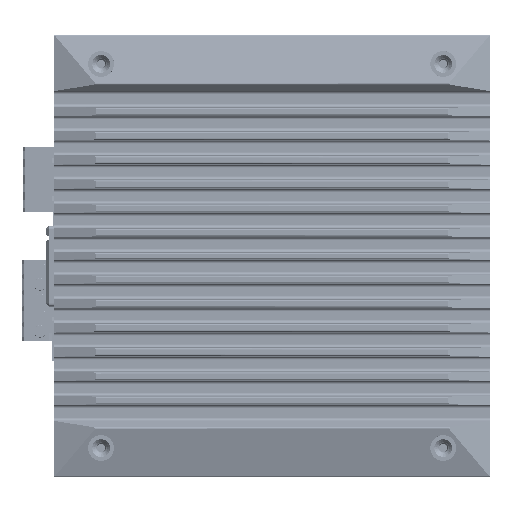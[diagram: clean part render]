
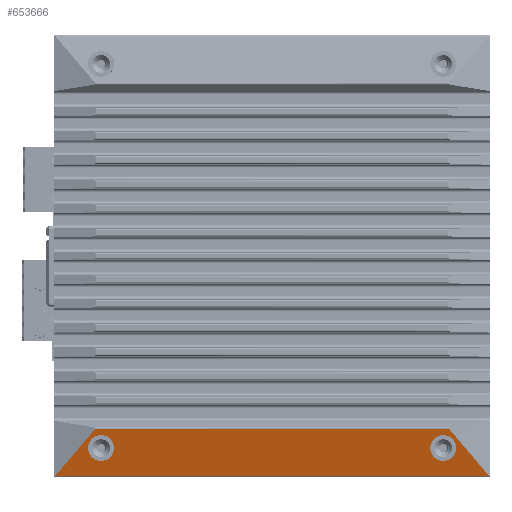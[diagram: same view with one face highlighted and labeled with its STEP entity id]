
A CAD part, front view. The second image highlights one B-rep face of the part: STEP entity #653666.
In plain terms, the highlighted planar face has unit normal (0, -0.963, -0.27) as drawn and (0.963, 0, -0.27) by its records, which use the part's own axes.
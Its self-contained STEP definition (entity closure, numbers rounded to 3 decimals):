
#649470=DIRECTION('',(-0.209,-0.633,
-0.745));
#649471=VECTOR('',#649470,19.513);
#649472=CARTESIAN_POINT('',(12.387,-54.841,
-53.59));
#649473=LINE('',#649472,#649471);
#649770=CARTESIAN_POINT('',(12.387,54.841,
-53.59));
#649781=DIRECTION('',(-0.209,0.633,-0.745));
#649782=VECTOR('',#649781,19.513);
#649783=CARTESIAN_POINT('',(12.387,54.841,
-53.59));
#649784=LINE('',#649783,#649782);
#650351=DIRECTION('',(0.,1.,0.));
#650352=VECTOR('',#650351,109.682);
#650353=CARTESIAN_POINT('',(12.387,-54.841,
-53.59));
#650354=LINE('',#650353,#650352);
#650355=DIRECTION('',(0.,-1.,0.));
#650356=VECTOR('',#650355,134.381);
#650357=CARTESIAN_POINT('',(8.302,67.19,
-68.135));
#650358=LINE('',#650357,#650356);
#650359=CARTESIAN_POINT('',(9.604,53.,-63.5));
#650360=CARTESIAN_POINT('',(9.604,53.471,-63.5));
#650361=CARTESIAN_POINT('',(9.652,54.49,
-63.329));
#650362=CARTESIAN_POINT('',(9.91,55.913,
-62.412));
#650363=CARTESIAN_POINT('',(10.242,56.676,
-61.229));
#650364=CARTESIAN_POINT('',(10.525,56.958,
-60.222));
#650365=CARTESIAN_POINT('',(10.728,57.021,-59.5));
#650366=CARTESIAN_POINT('',(10.93,56.958,
-58.778));
#650367=CARTESIAN_POINT('',(11.213,56.676,
-57.771));
#650368=CARTESIAN_POINT('',(11.545,55.913,
-56.588));
#650369=CARTESIAN_POINT('',(11.803,54.49,
-55.671));
#650370=CARTESIAN_POINT('',(11.851,53.471,-55.5));
#650371=CARTESIAN_POINT('',(11.851,53.,-55.5));
#650377=CARTESIAN_POINT('',(11.851,53.,-55.5));
#650378=CARTESIAN_POINT('',(11.851,52.529,-55.5));
#650379=CARTESIAN_POINT('',(11.803,51.51,
-55.671));
#650380=CARTESIAN_POINT('',(11.545,50.087,
-56.588));
#650381=CARTESIAN_POINT('',(11.213,49.324,
-57.771));
#650382=CARTESIAN_POINT('',(10.93,49.042,
-58.778));
#650383=CARTESIAN_POINT('',(10.728,48.979,-59.5));
#650384=CARTESIAN_POINT('',(10.525,49.042,
-60.222));
#650385=CARTESIAN_POINT('',(10.242,49.324,
-61.229));
#650386=CARTESIAN_POINT('',(9.91,50.087,
-62.412));
#650387=CARTESIAN_POINT('',(9.652,51.51,
-63.329));
#650388=CARTESIAN_POINT('',(9.604,52.529,-63.5));
#650389=CARTESIAN_POINT('',(9.604,53.,-63.5));
#650801=CARTESIAN_POINT('',(9.604,-53.,-63.5));
#650802=CARTESIAN_POINT('',(9.604,-52.529,-63.5));
#650803=CARTESIAN_POINT('',(9.652,-51.51,
-63.329));
#650804=CARTESIAN_POINT('',(9.91,-50.087,
-62.412));
#650805=CARTESIAN_POINT('',(10.242,-49.324,
-61.229));
#650806=CARTESIAN_POINT('',(10.525,-49.042,
-60.222));
#650807=CARTESIAN_POINT('',(10.728,-48.979,-59.5));
#650808=CARTESIAN_POINT('',(10.93,-49.042,
-58.778));
#650809=CARTESIAN_POINT('',(11.213,-49.324,
-57.771));
#650810=CARTESIAN_POINT('',(11.545,-50.087,
-56.588));
#650811=CARTESIAN_POINT('',(11.803,-51.51,
-55.671));
#650812=CARTESIAN_POINT('',(11.851,-52.529,-55.5));
#650813=CARTESIAN_POINT('',(11.851,-53.,-55.5));
#650819=CARTESIAN_POINT('',(11.851,-53.,-55.5));
#650820=CARTESIAN_POINT('',(11.851,-53.471,-55.5));
#650821=CARTESIAN_POINT('',(11.803,-54.49,
-55.671));
#650822=CARTESIAN_POINT('',(11.545,-55.913,
-56.588));
#650823=CARTESIAN_POINT('',(11.213,-56.676,
-57.771));
#650824=CARTESIAN_POINT('',(10.93,-56.958,
-58.778));
#650825=CARTESIAN_POINT('',(10.728,-57.021,-59.5));
#650826=CARTESIAN_POINT('',(10.525,-56.958,
-60.222));
#650827=CARTESIAN_POINT('',(10.242,-56.676,
-61.229));
#650828=CARTESIAN_POINT('',(9.91,-55.913,
-62.412));
#650829=CARTESIAN_POINT('',(9.652,-54.49,
-63.329));
#650830=CARTESIAN_POINT('',(9.604,-53.471,-63.5));
#650831=CARTESIAN_POINT('',(9.604,-53.,-63.5));
#651867=VERTEX_POINT('',#650359);
#651868=VERTEX_POINT('',#650371);
#651871=VERTEX_POINT('',#650801);
#651872=VERTEX_POINT('',#650813);
#652251=VERTEX_POINT('',#649770);
#652252=CARTESIAN_POINT('',(12.387,-54.841,
-53.59));
#652253=VERTEX_POINT('',#652252);
#652327=CARTESIAN_POINT('',(8.302,-67.19,
-68.135));
#652328=VERTEX_POINT('',#652327);
#652331=CARTESIAN_POINT('',(8.302,67.19,
-68.135));
#652332=VERTEX_POINT('',#652331);
#653643=CARTESIAN_POINT('',(12.5,-67.5,-53.189));
#653644=DIRECTION('',(-0.963,0.,0.27));
#653645=DIRECTION('',(-0.27,0.,-0.963));
#653646=AXIS2_PLACEMENT_3D('',#653643,#653644,#653645);
#653647=PLANE('',#653646);
#653648=ORIENTED_EDGE('',*,*,#653636,.T.);
#653649=ORIENTED_EDGE('',*,*,#653040,.T.);
#653650=ORIENTED_EDGE('',*,*,#652503,.T.);
#653651=ORIENTED_EDGE('',*,*,#652682,.F.);
#653652=EDGE_LOOP('',(#653648,#653649,#653650,#653651));
#653653=FACE_OUTER_BOUND('',#653652,.F.);
#653655=ORIENTED_EDGE('',*,*,#653654,.T.);
#653657=ORIENTED_EDGE('',*,*,#653656,.T.);
#653658=EDGE_LOOP('',(#653655,#653657));
#653659=FACE_BOUND('',#653658,.F.);
#653661=ORIENTED_EDGE('',*,*,#653660,.T.);
#653663=ORIENTED_EDGE('',*,*,#653662,.T.);
#653664=EDGE_LOOP('',(#653661,#653663));
#653665=FACE_BOUND('',#653664,.F.);
#650372=B_SPLINE_CURVE_WITH_KNOTS('',3,(#650359,#650360,#650361,#650362,#650363,
#650364,#650365,#650366,#650367,#650368,#650369,#650370,#650371),.UNSPECIFIED.,
.F.,.F.,(4,1,1,1,1,1,1,1,1,1,4),(0.,0.125,0.25,0.375,0.438,0.5,
0.563,0.625,0.75,0.875,1.),.UNSPECIFIED.);
#650390=B_SPLINE_CURVE_WITH_KNOTS('',3,(#650377,#650378,#650379,#650380,#650381,
#650382,#650383,#650384,#650385,#650386,#650387,#650388,#650389),.UNSPECIFIED.,
.F.,.F.,(4,1,1,1,1,1,1,1,1,1,4),(0.,0.125,0.25,0.375,0.438,0.5,
0.563,0.625,0.75,0.875,1.),.UNSPECIFIED.);
#650814=B_SPLINE_CURVE_WITH_KNOTS('',3,(#650801,#650802,#650803,#650804,#650805,
#650806,#650807,#650808,#650809,#650810,#650811,#650812,#650813),.UNSPECIFIED.,
.F.,.F.,(4,1,1,1,1,1,1,1,1,1,4),(0.,0.125,0.25,0.375,0.438,0.5,
0.563,0.625,0.75,0.875,1.),.UNSPECIFIED.);
#650832=B_SPLINE_CURVE_WITH_KNOTS('',3,(#650819,#650820,#650821,#650822,#650823,
#650824,#650825,#650826,#650827,#650828,#650829,#650830,#650831),.UNSPECIFIED.,
.F.,.F.,(4,1,1,1,1,1,1,1,1,1,4),(0.,0.125,0.25,0.375,0.438,0.5,
0.563,0.625,0.75,0.875,1.),.UNSPECIFIED.);
#652503=EDGE_CURVE('',#652332,#652328,#650358,.T.);
#652682=EDGE_CURVE('',#652253,#652328,#649473,.T.);
#653040=EDGE_CURVE('',#652251,#652332,#649784,.T.);
#653636=EDGE_CURVE('',#652253,#652251,#650354,.T.);
#653654=EDGE_CURVE('',#651871,#651872,#650814,.T.);
#653656=EDGE_CURVE('',#651872,#651871,#650832,.T.);
#653660=EDGE_CURVE('',#651867,#651868,#650372,.T.);
#653662=EDGE_CURVE('',#651868,#651867,#650390,.T.);
#653666=ADVANCED_FACE('',(#653653,#653659,#653665),#653647,.F.);
